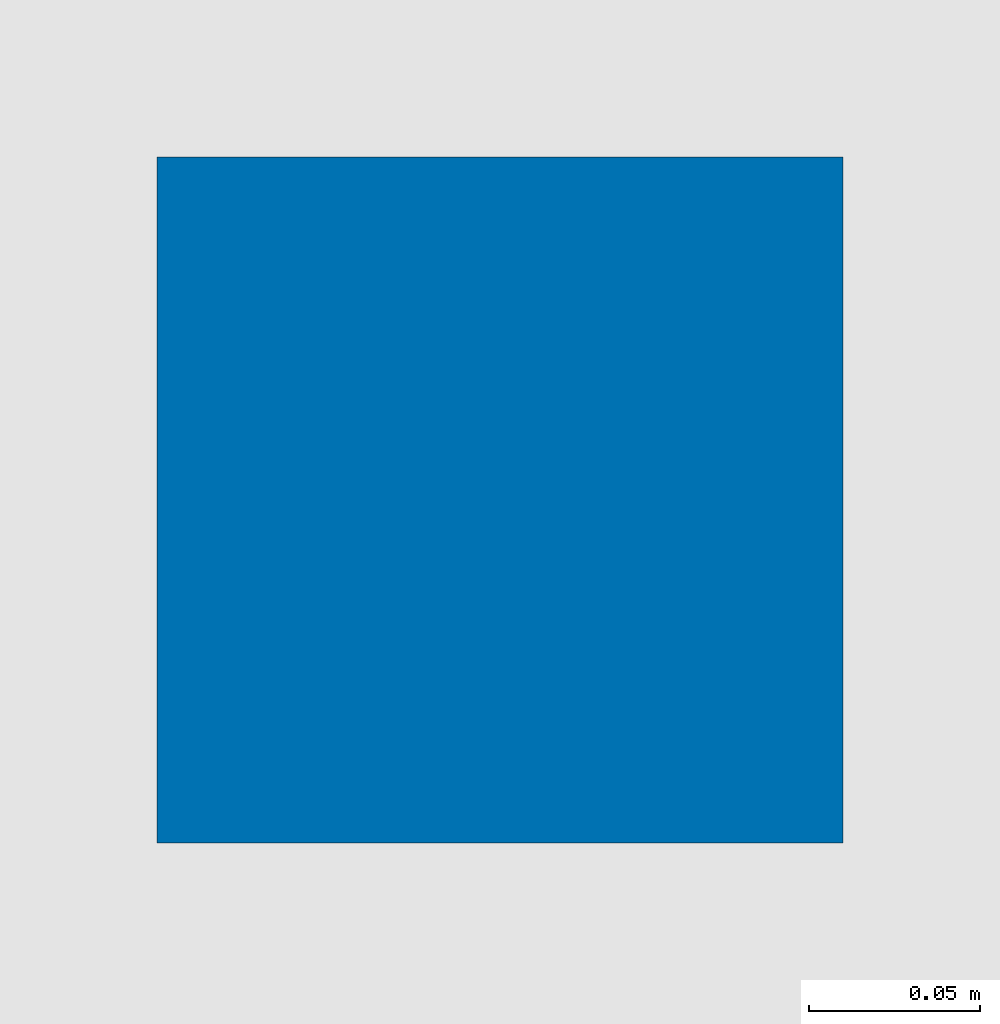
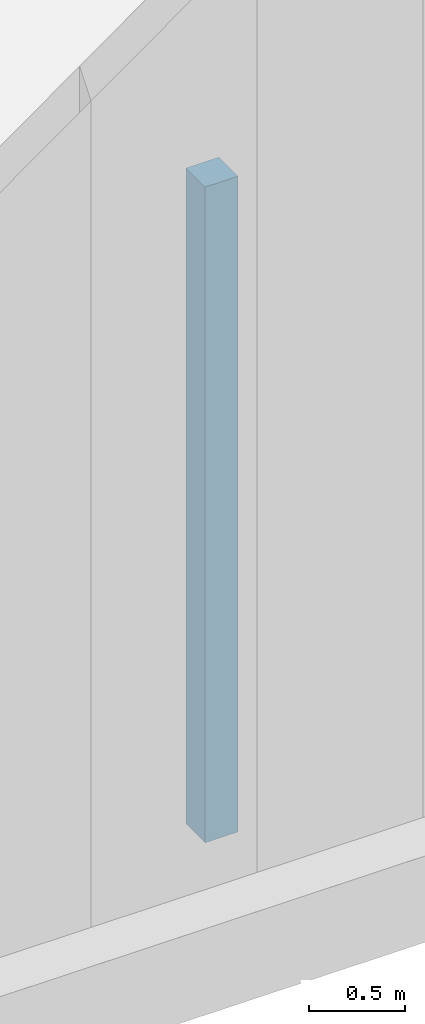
# One storey, part 2 of 302: 1 column.
"""IFC2X3 building model written with IfcOpenShell, lengths in metres."""

from ifc_helpers import new_model, entity, si_unit, converted_unit, derived_unit, direction, frame, origin, origin_2d_with_axis, place, context, subcontext, project, spatial, rectangle, extrude, source, transform, mapped, material, type_object, type_shapes, element, save


model = new_model("IFC2X3")

# Units and contexts
model_context = context("Model", 3, precision=1e-05, world=origin(), true_north=direction((6.12303176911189e-17, 1.0)))
body_context = subcontext(model_context, "Body", "Model", "MODEL_VIEW")
ifc_project = project(units=[si_unit("LENGTHUNIT", "METRE"), si_unit("AREAUNIT", "SQUARE_METRE"), si_unit("VOLUMEUNIT", "CUBIC_METRE"), converted_unit("PLANEANGLEUNIT", "DEGREE", entity("IfcRatioMeasure", 0.0174532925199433), si_unit("PLANEANGLEUNIT", "RADIAN"), dimensions=[0, 0, 0, 0, 0, 0, 0]), si_unit("MASSUNIT", "GRAM", prefix="KILO"), derived_unit("MASSDENSITYUNIT", [(si_unit("MASSUNIT", "GRAM", prefix="KILO"), 1), (si_unit("LENGTHUNIT", "METRE"), -3)]), derived_unit("MOMENTOFINERTIAUNIT", [(si_unit("LENGTHUNIT", "METRE"), 4)]), si_unit("TIMEUNIT", "SECOND"), si_unit("FREQUENCYUNIT", "HERTZ"), si_unit("THERMODYNAMICTEMPERATUREUNIT", "DEGREE_CELSIUS"), derived_unit("THERMALTRANSMITTANCEUNIT", [(si_unit("MASSUNIT", "GRAM", prefix="KILO"), 1), (si_unit("THERMODYNAMICTEMPERATUREUNIT", "KELVIN"), -1), (si_unit("TIMEUNIT", "SECOND"), -3)]), derived_unit("VOLUMETRICFLOWRATEUNIT", [(si_unit("LENGTHUNIT", "METRE"), 3), (si_unit("TIMEUNIT", "SECOND"), -1)]), si_unit("ELECTRICCURRENTUNIT", "AMPERE"), si_unit("ELECTRICVOLTAGEUNIT", "VOLT"), si_unit("POWERUNIT", "WATT"), si_unit("FORCEUNIT", "NEWTON", prefix="KILO"), si_unit("ILLUMINANCEUNIT", "LUX"), si_unit("LUMINOUSFLUXUNIT", "LUMEN"), si_unit("LUMINOUSINTENSITYUNIT", "CANDELA"), derived_unit("USERDEFINED", [(si_unit("MASSUNIT", "GRAM", prefix="KILO"), -1), (si_unit("LENGTHUNIT", "METRE"), -2), (si_unit("TIMEUNIT", "SECOND"), 3), (si_unit("LUMINOUSFLUXUNIT", "LUMEN"), 1)]), derived_unit("LINEARVELOCITYUNIT", [(si_unit("LENGTHUNIT", "METRE"), 1), (si_unit("TIMEUNIT", "SECOND"), -1)]), si_unit("PRESSUREUNIT", "PASCAL"), derived_unit("USERDEFINED", [(si_unit("LENGTHUNIT", "METRE"), -2), (si_unit("MASSUNIT", "GRAM", prefix="KILO"), 1), (si_unit("TIMEUNIT", "SECOND"), -2)]), derived_unit("LINEARFORCEUNIT", [(si_unit("MASSUNIT", "GRAM", prefix="KILO"), 1), (si_unit("LENGTHUNIT", "METRE"), 1), (si_unit("TIMEUNIT", "SECOND"), -2), (si_unit("LENGTHUNIT", "METRE"), -1)]), derived_unit("PLANARFORCEUNIT", [(si_unit("MASSUNIT", "GRAM", prefix="KILO"), 1), (si_unit("LENGTHUNIT", "METRE"), 1), (si_unit("TIMEUNIT", "SECOND"), -2), (si_unit("LENGTHUNIT", "METRE"), -2)])], contexts=[model_context])

# Site, building, storey
site_placement = place(None, origin())
site = spatial("IfcSite", under=ifc_project, at=site_placement, Name="Default", CompositionType="ELEMENT")
building_placement = place(site_placement, origin())
building = spatial("IfcBuilding", under=site, at=building_placement, CompositionType="ELEMENT")
storey_placement = place(building_placement, frame((0.0, 0.0, -1.3)))
storey = spatial("IfcBuildingStorey", under=building, at=storey_placement, Name="00_EG", CompositionType="ELEMENT", Elevation=-1.3)

# Column
ifc_material = material(Name="Ortbeton -Stütze")
column_type = type_object("IfcColumnType", Name="STB Stütze - rechteckig:Stütze 200 x 200", PredefinedType="COLUMN", material=ifc_material)
shared_shape = source(origin(), body_context, "Body", "SweptSolid", [
    extrude(rectangle(XDim=0.2, YDim=0.2, at=origin_2d_with_axis()), frame((0.0, 0.0, -0.0300000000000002), z_axis=(0.0, 0.0, 1.0), x_axis=(0.0, -1.0, 0.0)), (0.0, 0.0, 1.0), 4.18),
])
type_shapes(column_type, [shared_shape])
column_placement = place(storey_placement, frame((-183.570111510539, 15.2872628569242, 1.3)))
element("IfcColumn", 1, at=column_placement, inside=storey, type_object=column_type, material=ifc_material, Name="STB Stütze - rechteckig:Stütze 200 x 200", ObjectType="STB Stütze - rechteckig:Stütze 200 x 200", context=body_context, shape_type="MappedRepresentation", body=[
    mapped(shared_shape, transform((0.0, 0.0, 0.0), scale=1.0)),
])

save(model, "model.ifc")
